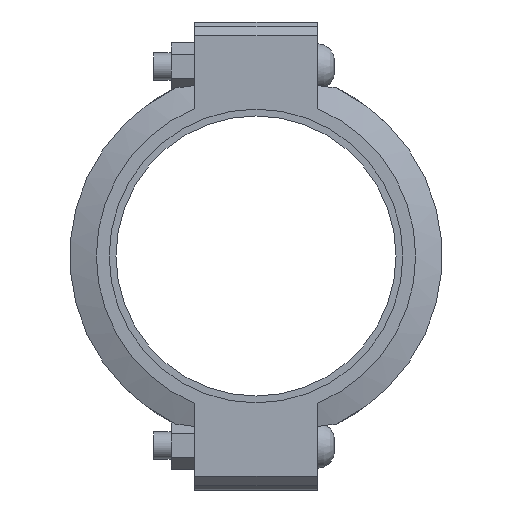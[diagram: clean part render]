
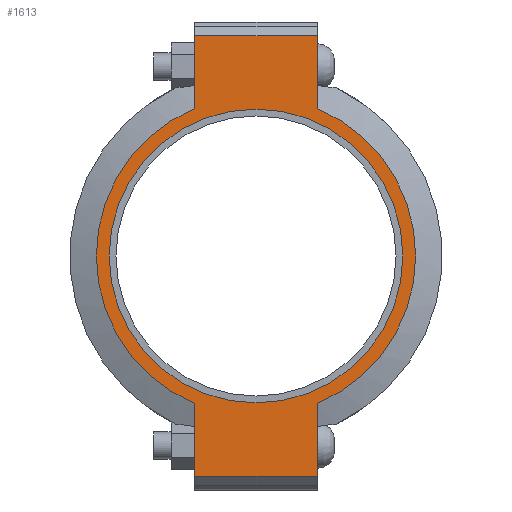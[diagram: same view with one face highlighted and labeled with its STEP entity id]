
A CAD part, left-side view. The second image highlights one B-rep face of the part: STEP entity #1613.
In plain terms, the highlighted planar face has unit normal (-1, 0, 0) as drawn and (0, 0, 1) by its records, which use the part's own axes.
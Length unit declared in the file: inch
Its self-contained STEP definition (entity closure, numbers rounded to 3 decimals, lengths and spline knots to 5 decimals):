
#184=LINE('',#2787,#273);
#195=LINE('',#2838,#284);
#201=LINE('',#2864,#290);
#203=LINE('',#2867,#292);
#204=LINE('',#2872,#293);
#205=LINE('',#2873,#294);
#273=VECTOR('',#2271,0.3937);
#284=VECTOR('',#2302,0.3937);
#290=VECTOR('',#2320,0.3937);
#292=VECTOR('',#2324,0.3937);
#293=VECTOR('',#2329,0.3937);
#294=VECTOR('',#2330,0.3937);
#356=FACE_BOUND('',#533,.T.);
#424=FACE_OUTER_BOUND('',#532,.T.);
#532=EDGE_LOOP('',(#1308,#1309,#1310,#1311,#1312,#1313,#1314,#1315));
#533=EDGE_LOOP('',(#1316));
#615=CIRCLE('',#1841,5.375);
#639=CIRCLE('',#1893,5.845);
#640=CIRCLE('',#1894,5.845);
#711=VERTEX_POINT('',#2613);
#752=VERTEX_POINT('',#2784);
#753=VERTEX_POINT('',#2786);
#770=VERTEX_POINT('',#2833);
#771=VERTEX_POINT('',#2837);
#778=VERTEX_POINT('',#2859);
#779=VERTEX_POINT('',#2863);
#780=VERTEX_POINT('',#2869);
#781=VERTEX_POINT('',#2871);
#875=EDGE_CURVE('',#711,#711,#615,.T.);
#932=EDGE_CURVE('',#753,#752,#184,.T.);
#953=EDGE_CURVE('',#771,#770,#195,.T.);
#964=EDGE_CURVE('',#779,#778,#201,.T.);
#966=EDGE_CURVE('',#779,#752,#203,.T.);
#967=EDGE_CURVE('',#778,#780,#639,.T.);
#968=EDGE_CURVE('',#780,#781,#204,.T.);
#969=EDGE_CURVE('',#771,#781,#205,.T.);
#970=EDGE_CURVE('',#770,#753,#640,.T.);
#1308=ORIENTED_EDGE('',*,*,#966,.F.);
#1309=ORIENTED_EDGE('',*,*,#964,.T.);
#1310=ORIENTED_EDGE('',*,*,#967,.T.);
#1311=ORIENTED_EDGE('',*,*,#968,.T.);
#1312=ORIENTED_EDGE('',*,*,#969,.F.);
#1313=ORIENTED_EDGE('',*,*,#953,.T.);
#1314=ORIENTED_EDGE('',*,*,#970,.T.);
#1315=ORIENTED_EDGE('',*,*,#932,.T.);
#1316=ORIENTED_EDGE('',*,*,#875,.T.);
#1453=PLANE('',#1892);
#1613=ADVANCED_FACE('',(#424,#356),#1453,.T.);
#1841=AXIS2_PLACEMENT_3D('',#2615,#2161,#2162);
#1892=AXIS2_PLACEMENT_3D('',#2868,#2325,#2326);
#1893=AXIS2_PLACEMENT_3D('',#2870,#2327,#2328);
#1894=AXIS2_PLACEMENT_3D('',#2874,#2331,#2332);
#2161=DIRECTION('center_axis',(0.,0.,-1.));
#2162=DIRECTION('ref_axis',(-1.,0.,0.));
#2271=DIRECTION('',(-1.,0.,0.));
#2302=DIRECTION('',(-1.,0.,0.));
#2320=DIRECTION('',(1.,0.,0.));
#2324=DIRECTION('',(0.,1.,0.));
#2325=DIRECTION('center_axis',(0.,0.,1.));
#2326=DIRECTION('ref_axis',(1.,0.,0.));
#2327=DIRECTION('center_axis',(0.,0.,1.));
#2328=DIRECTION('ref_axis',(-1.,0.,0.));
#2329=DIRECTION('',(1.,0.,0.));
#2330=DIRECTION('',(0.,-1.,0.));
#2331=DIRECTION('center_axis',(0.,0.,1.));
#2332=DIRECTION('ref_axis',(-1.,0.,0.));
#2613=CARTESIAN_POINT('',(5.375,0.,1.315));
#2615=CARTESIAN_POINT('Origin',(0.,0.,1.315));
#2784=CARTESIAN_POINT('',(-8.065,2.25,1.315));
#2786=CARTESIAN_POINT('',(-5.39458,2.25,1.315));
#2787=CARTESIAN_POINT('',(8.565,2.25,1.315));
#2833=CARTESIAN_POINT('',(5.39458,2.25,1.315));
#2837=CARTESIAN_POINT('',(8.065,2.25,1.315));
#2838=CARTESIAN_POINT('',(8.565,2.25,1.315));
#2859=CARTESIAN_POINT('',(-5.39458,-2.25,1.315));
#2863=CARTESIAN_POINT('',(-8.065,-2.25,1.315));
#2864=CARTESIAN_POINT('',(-8.565,-2.25,1.315));
#2867=CARTESIAN_POINT('',(-8.065,1.125,1.315));
#2868=CARTESIAN_POINT('Origin',(0.,0.,
1.315));
#2869=CARTESIAN_POINT('',(5.39458,-2.25,1.315));
#2870=CARTESIAN_POINT('Origin',(0.,0.,1.315));
#2871=CARTESIAN_POINT('',(8.065,-2.25,1.315));
#2872=CARTESIAN_POINT('',(-8.565,-2.25,1.315));
#2873=CARTESIAN_POINT('',(8.065,-1.125,1.315));
#2874=CARTESIAN_POINT('Origin',(0.,0.,1.315));
